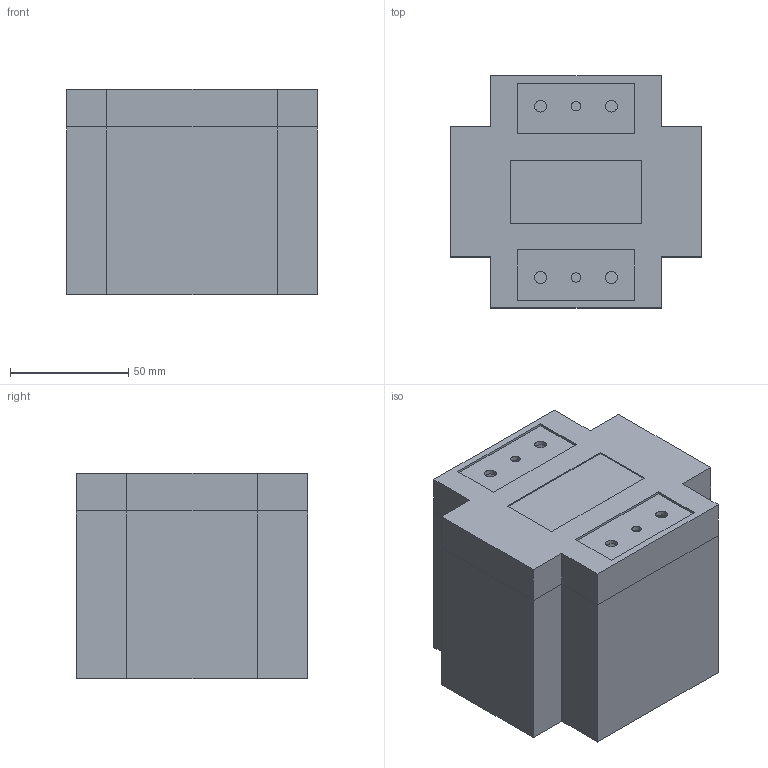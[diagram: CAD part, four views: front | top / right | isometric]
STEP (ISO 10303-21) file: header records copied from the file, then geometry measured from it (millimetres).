
FILE_DESCRIPTION(/* description */ (''),/* implementation_level */ '2;1');
FILE_NAME(/* name */ 'TE15P.stp',/* time_stamp */ '2025-11-04T13:56:40+08:00',/* author */ (''),/* organization */ (''),/* preprocessor_version */ 'ST-DEVELOPER v18.102',/* originating_system */ 'SIEMENS PLM Software NX2206.1700',/* authorisation */ '');
FILE_SCHEMA (('AUTOMOTIVE_DESIGN { 1 0 10303 214 3 1 1 1 }'));
Length unit declared in the file: millimetre
Products named in the file (1): TE15P_objects
Bounding box: 106 x 98 x 87 mm (x, y, z)
Volume: 146589.8 mm3; surface area: 105017.5 mm2
Topology: 2 solids, 2 shells, 183 faces, 483 edges, 321 vertices
Faces by surface type: plane 165, cylinder 16, cone 2
Full cylindrical faces by diameter (mm): 4 x2, 5 x4, 5.9 x2, 8.6 x2, 10.7 x2, 12 x2, 14.7 x2
Entity records: 5544 total; most frequent: CARTESIAN_POINT 968, ORIENTED_EDGE 928, DIRECTION 864, EDGE_CURVE 464, LINE 432, VECTOR 432, VERTEX_POINT 320, EDGE_LOOP 238
